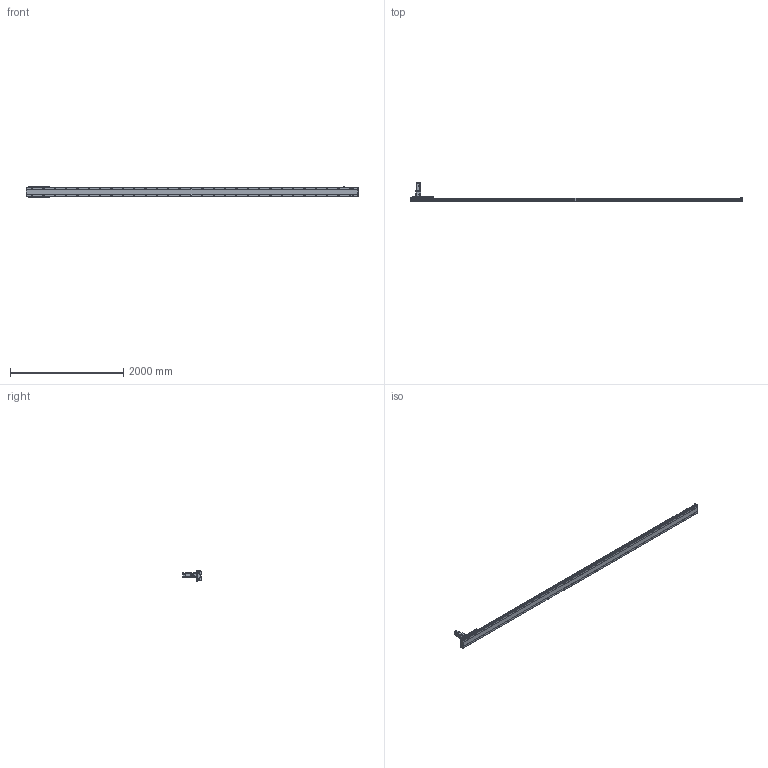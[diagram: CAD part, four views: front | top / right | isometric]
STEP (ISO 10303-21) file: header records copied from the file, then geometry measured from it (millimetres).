
FILE_DESCRIPTION(/* description */ ('STEP AP203'),/* implementation_level */ '2;1');
FILE_NAME(/* name */ 'SHS17A-L13-S5400-BC-T75-C1-N(0)',/* time_stamp */ '2023-03-27T08:59:36+02:00',/* author */ ('License CC BY-ND 4.0'),/* organization */ ('CADENAS'),/* preprocessor_version */ 'ST-DEVELOPER v19.3',/* originating_system */ 'PARTsolutions',/* authorisation */ ' ');
FILE_SCHEMA (('CONFIG_CONTROL_DESIGN'));
Length unit declared in the file: millimetre
Products named in the file (7): SHS17A-L13-S5400-BC-T75-C1-N(0); PSC140-sensor; SHS17A-S5400(0)_body2; T75-p1; SHS17A-S5400_body3; SHS17A-S5400-C1(0)_slider; SHS17A-S5400-C1(0)_body
Assembly tree (13 placements, depth 2):
  SHS17A-L13-S5400-BC-T75-C1-N(0)
    PSC140-sensor  x3
    SHS17A-S5400(0)_body2  x6
    T75-p1
    SHS17A-S5400_body3
    SHS17A-S5400-C1(0)_slider
    SHS17A-S5400-C1(0)_body
Bounding box: 5854 x 333.8 x 193.4 mm (x, y, z)
Volume: 38973080.7 mm3; surface area: 4434632.1 mm2
Topology: 13 solids, 13 shells, 2616 faces, 6701 edges, 4360 vertices
Faces by surface type: plane 1559, cylinder 940, cone 114, torus 3
Full cylindrical faces by diameter (mm): 2.8 x3, 4.134 x24, 4.5 x2, 4.6 x3, 4.917 x15, 5.5 x48, 6 x7, 6.5 x24, 6.647 x68, 6.8 x9, 8 x3, 8.5 x60, 10 x28, 11 x4, 14 x60, 22 x1, 24 x1, 24.2 x1, 28 x1, 28.2 x1, 28.8 x1, 29.8 x1, 48.542 x1, 68 x1, 70 x1, 78 x1, 80 x2
Entity records: 55584 total; most frequent: CARTESIAN_POINT 11388, DIRECTION 8923, ORIENTED_EDGE 8700, EDGE_CURVE 4350, AXIS2_PLACEMENT_3D 3222, VERTEX_POINT 3067, EDGE_LOOP 2607, FACE_BOUND 2607
